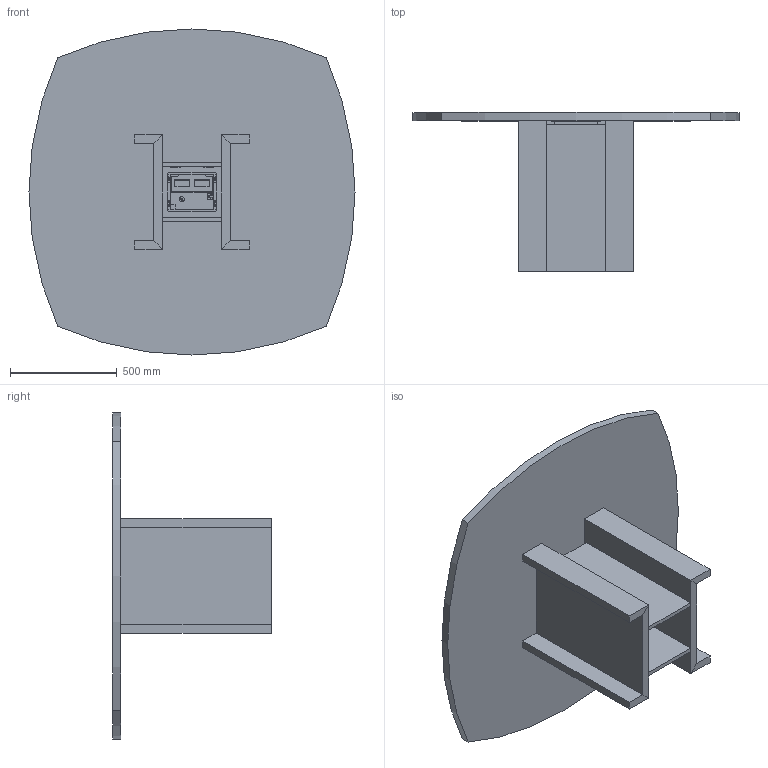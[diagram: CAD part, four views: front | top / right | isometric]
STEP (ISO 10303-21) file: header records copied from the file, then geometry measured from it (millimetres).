
FILE_DESCRIPTION(/* description */ ('','CAx-IF Rec.Pracs.---Representation and Presentation of Product Manufacturing Information (PMI)---4.0---2014-10-13'),/* implementation_level */ '2;1');
FILE_NAME(/* name */ 'TABLE_FOUNDATION 4.stp',/* time_stamp */ '2024-12-07T16:54:34-05:00',/* author */ ('mbowman'),/* organization */ (''),/* preprocessor_version */ 'ST-DEVELOPER v19.2',/* originating_system */ 'Autodesk Inventor 2023',/* authorisation */ '');
FILE_SCHEMA (('AP242_MANAGED_MODEL_BASED_3D_ENGINEERING_MIM_LF { 1 0 10303 442 1 1 4 }'));
Length unit declared in the file: inch
Products named in the file (20): FOUNDATION^TABLE 4_60x60 RADIUS EDGES-TABLE ASSEMBLY; FOUNDATION^TABLE 4_60x60 RADIUS EDGEE-BASE ASSEMBLY; FOUNDATION^TABLE 4_60x60 RADIUS EDGES-BASE END; FOUNDATION^TABLE 4_60x60 RADIUS EDGES-BASE BACK; FOUNDATION^TABLE 4_60x60 RADIUS EDGES-BASE ACCESS; FOUNDATION^TABLE 4_60x60 RADIUS EDGES-BASE RAIL; Z CLIP (H-541); FOUNDATION^TABLE 4_60x60 RADIUS EDGES-WORKSURFACE; _ASSEM_HINGE; _ASSEM_HINGE_1; _SUPPORT; _TIGE_3; _ARM; _TIGE_2; _TIGE_1; FOUNDATION^TABLE 4_60x60 RADIUS EDGES-POWER LID; ECA INTERACT+ UT; ECA INTERACT+ UT_1; 8965-6403_8965-6408 no wires; 025-0043_025-0043
Assembly tree (45 placements, depth 4):
  FOUNDATION^TABLE 4_60x60 RADIUS EDGES-TABLE ASSEMBLY
    FOUNDATION^TABLE 4_60x60 RADIUS EDGEE-BASE ASSEMBLY
      FOUNDATION^TABLE 4_60x60 RADIUS EDGES-BASE END  x2
      FOUNDATION^TABLE 4_60x60 RADIUS EDGES-BASE BACK
      FOUNDATION^TABLE 4_60x60 RADIUS EDGES-BASE ACCESS
      FOUNDATION^TABLE 4_60x60 RADIUS EDGES-BASE RAIL  x2
      Z CLIP (H-541)  x4
    FOUNDATION^TABLE 4_60x60 RADIUS EDGES-WORKSURFACE
    _ASSEM_HINGE
      _SUPPORT  x2
      _TIGE_3  x2
      _ARM  x4
      _TIGE_1  x2
      _TIGE_2
    _ASSEM_HINGE_1
      _SUPPORT  x2
      _TIGE_3  x2
      _ARM  x4
      _TIGE_1  x2
      _TIGE_2
    FOUNDATION^TABLE 4_60x60 RADIUS EDGES-POWER LID
    ECA INTERACT+ UT
      ECA INTERACT+ UT_1
      8965-6403_8965-6408 no wires  x5
        025-0043_025-0043
Bounding box: 1524 x 742.95 x 1524 mm (x, y, z)
Volume: 122315909.7 mm3; surface area: 8003575.8 mm2
Topology: 45 solids, 45 shells, 2387 faces, 6501 edges, 4200 vertices
Faces by surface type: plane 1400, cylinder 850, torus 88, cone 33, sphere 16
Full cylindrical faces by diameter (mm): 1 x42, 1.1 x4, 8 x3, 8.007 x1, 9.525 x1
Entity records: 26892 total; most frequent: CARTESIAN_POINT 7350, DIRECTION 3810, ORIENTED_EDGE 3666, EDGE_CURVE 1833, LINE 1336, VECTOR 1336, AXIS2_PLACEMENT_3D 1237, VERTEX_POINT 1188
